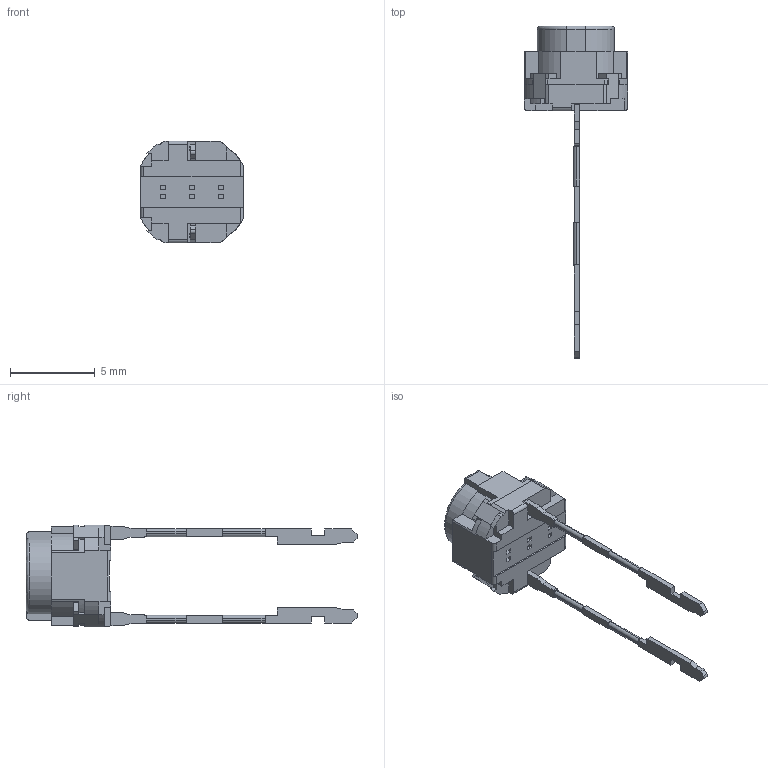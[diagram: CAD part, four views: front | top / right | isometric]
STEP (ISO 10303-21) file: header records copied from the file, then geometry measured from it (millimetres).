
FILE_DESCRIPTION (( 'STEP AP203' ), '1' );
FILE_NAME ('EVQPVA05K.STEP', '2013-07-19T02:20:09', ( '全社標準ＰＣ' ), ( 'パナソニック株式会社' ), 'SwSTEP 2.0', 'SolidWorks 2012', '' );
FILE_SCHEMA (( 'CONFIG_CONTROL_DESIGN' ));
Length unit declared in the file: millimetre
Products named in the file (1): EVQPVA05K
Bounding box: 6.1 x 19.58 x 6 mm (x, y, z)
Volume: 132.2 mm3; surface area: 231.5 mm2
Topology: 1 solids, 1 shells, 311 faces, 858 edges, 550 vertices
Faces by surface type: plane 261, cylinder 48, bspline 2
Entity records: 9973 total; most frequent: CARTESIAN_POINT 1863, ORIENTED_EDGE 1716, DIRECTION 1628, EDGE_CURVE 858, LINE 690, VECTOR 690, VERTEX_POINT 550, AXIS2_PLACEMENT_3D 469
